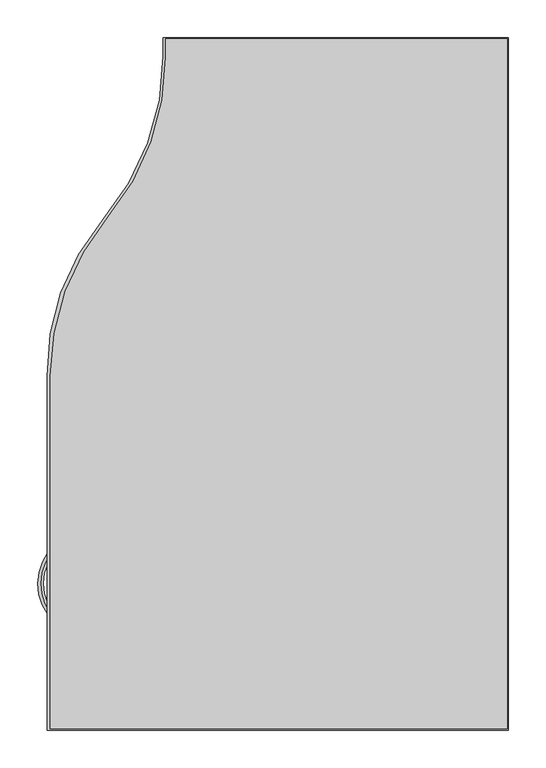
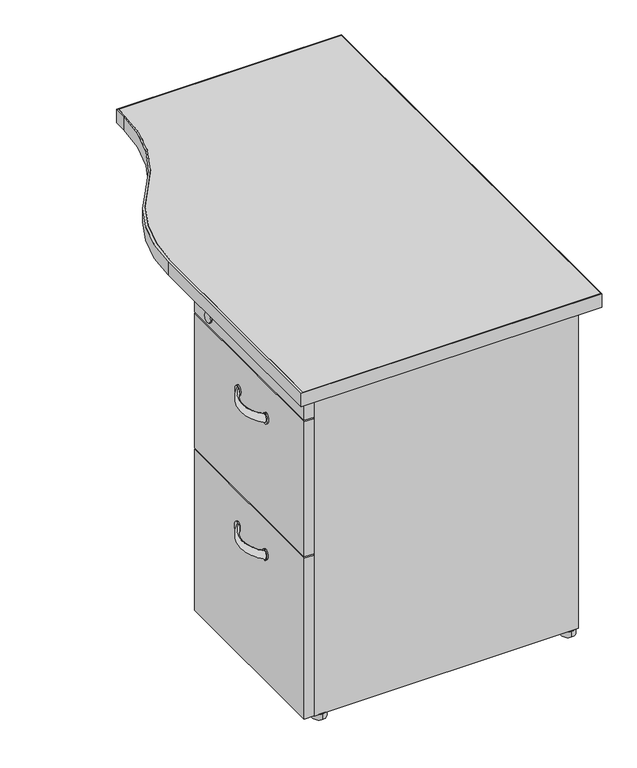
"""IFC4 building model written with IfcOpenShell, lengths in millimetres: furniture geometry, Steelcase - Kick Freestanding - Desk - Single Pedestal Transition Return : 18D x 36W - Right - File/File."""

from ifc_helpers import new_model, si_unit, point, frame, frame_2d, origin, origin_with_axes, place, context, project, spatial, polyline, circle_curve, ellipse_curve, trimmed, segment, composite_curve, outline, extrude, source, transform, mapped, element, save
from ifc_brep_helpers import plane_surface, cylinder_surface, revolved_surface, extruded_surface, advanced_brep


def furniture_96d449bd(model_context):
    return source(origin(), model_context, "Body", "SolidModel", [
        advanced_brep(
        [(1567.1281641, -1316.8132511, 586.4818798), (1567.1281641, -1316.8132511, 569.2783404), (1567.7941808, -1217.6632386, 586.4818798), (1567.7941808, -1217.6632386, 569.2783404)],
        [
            (0, 1, ellipse_curve(frame((1567.1281641, -1316.8132511, 577.8801101), z_axis=(0.7327226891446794, -0.6805273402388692, 0.0), x_axis=(0.0, 0.0, -1.0)), 8.6017697, 3.6448177)),
            (1, 0, ellipse_curve(frame((1567.1281641, -1316.8132511, 577.8801101), z_axis=(0.7327226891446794, -0.6805273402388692, 0.0), x_axis=(0.0, 0.0, -1.0)), 8.6017697, 3.6448177)),
            (2, 3, ellipse_curve(frame((1567.7941808, -1217.6632386, 577.8801101), z_axis=(0.7417987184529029, 0.670622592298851, 0.0), x_axis=(0.0, 0.0, -1.0)), 8.6017697, 3.6448177)),
            (3, 2, ellipse_curve(frame((1567.7941808, -1217.6632386, 577.8801101), z_axis=(0.7417987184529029, 0.670622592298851, 0.0), x_axis=(0.0, 0.0, -1.0)), 8.6017697, 3.6448177)),
            (3, 1, circle_curve(frame((1612.8882961, -1267.5433908, 569.2783404), z_axis=(0.0, 0.0, 1.0), x_axis=(-0.6805273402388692, -0.7327226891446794, 0.0)), 67.2421655)),
            (0, 2, circle_curve(frame((1612.8882961, -1267.5433908, 586.4818798), z_axis=(0.0, 0.0, -1.0), x_axis=(-0.6805273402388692, -0.7327226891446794, 0.0)), 67.2421655)),
        ],
        [
            plane_surface(frame((1566.3645897, -1317.6353903, 0.0), z_axis=(0.7327226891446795, -0.6805273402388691, 0.0), x_axis=(0.0, 0.0, 1.0))),
            plane_surface(frame((1567.0417199, -1216.8309157, 0.0), z_axis=(0.7417987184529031, 0.6706225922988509, 0.0), x_axis=(0.0, 0.0, 1.0))),
            revolved_surface(trimmed(ellipse_curve(frame((1567.1281641, -1316.8132511, 577.8801101), z_axis=(0.7327226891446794, -0.6805273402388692, 0.0), x_axis=(0.0, 0.0, -1.0)), 8.6017697, 3.6448177), [point((1567.1281641, -1316.8132511, 586.4818798))], [point((1567.1281641, -1316.8132511, 569.2783404))], True, "CARTESIAN"), (1612.8882961, -1267.5433908, 0.0), (0.0, 0.0, -1.0)),
            revolved_surface(trimmed(ellipse_curve(frame((1567.1281641, -1316.8132511, 577.8801101), z_axis=(0.7327226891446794, -0.6805273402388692, 0.0), x_axis=(0.0, 0.0, -1.0)), 8.6017697, 3.6448177), [point((1567.1281641, -1316.8132511, 569.2783404))], [point((1567.1281641, -1316.8132511, 586.4818798))], True, "CARTESIAN"), (1612.8882961, -1267.5433908, 0.0), (0.0, 0.0, -1.0)),
        ],
        [
            (0, [[1, 2]]),
            (1, [[3, 4]]),
            (2, [[5, -1, 6, -4]]),
            (3, [[-6, -2, -5, -3]]),
        ],
    ),
        advanced_brep(
        [(1567.1281641, -1316.8132511, 293.5881298), (1567.1281641, -1316.8132511, 276.3845904), (1567.7941808, -1217.6632386, 293.5881298), (1567.7941808, -1217.6632386, 276.3845904)],
        [
            (0, 1, ellipse_curve(frame((1567.1281641, -1316.8132511, 284.9863601), z_axis=(0.7327226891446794, -0.6805273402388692, 0.0), x_axis=(0.0, 0.0, -1.0)), 8.6017697, 3.6448177)),
            (1, 0, ellipse_curve(frame((1567.1281641, -1316.8132511, 284.9863601), z_axis=(0.7327226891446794, -0.6805273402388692, 0.0), x_axis=(0.0, 0.0, -1.0)), 8.6017697, 3.6448177)),
            (2, 3, ellipse_curve(frame((1567.7941808, -1217.6632386, 284.9863601), z_axis=(0.7417987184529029, 0.670622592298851, 0.0), x_axis=(0.0, 0.0, -1.0)), 8.6017697, 3.6448177)),
            (3, 2, ellipse_curve(frame((1567.7941808, -1217.6632386, 284.9863601), z_axis=(0.7417987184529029, 0.670622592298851, 0.0), x_axis=(0.0, 0.0, -1.0)), 8.6017697, 3.6448177)),
            (3, 1, circle_curve(frame((1612.8882961, -1267.5433908, 276.3845904), z_axis=(0.0, 0.0, 1.0), x_axis=(-0.6805273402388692, -0.7327226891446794, 0.0)), 67.2421655)),
            (0, 2, circle_curve(frame((1612.8882961, -1267.5433908, 293.5881298), z_axis=(0.0, 0.0, -1.0), x_axis=(-0.6805273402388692, -0.7327226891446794, 0.0)), 67.2421655)),
        ],
        [
            plane_surface(frame((1566.3645897, -1317.6353903, 0.0), z_axis=(0.7327226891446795, -0.6805273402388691, 0.0), x_axis=(0.0, 0.0, 1.0))),
            plane_surface(frame((1567.0417199, -1216.8309157, 0.0), z_axis=(0.7417987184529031, 0.6706225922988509, 0.0), x_axis=(0.0, 0.0, 1.0))),
            revolved_surface(trimmed(ellipse_curve(frame((1567.1281641, -1316.8132511, 284.9863601), z_axis=(0.7327226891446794, -0.6805273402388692, 0.0), x_axis=(0.0, 0.0, -1.0)), 8.6017697, 3.6448177), [point((1567.1281641, -1316.8132511, 293.5881298))], [point((1567.1281641, -1316.8132511, 276.3845904))], True, "CARTESIAN"), (1612.8882961, -1267.5433908, 0.0), (0.0, 0.0, -1.0)),
            revolved_surface(trimmed(ellipse_curve(frame((1567.1281641, -1316.8132511, 284.9863601), z_axis=(0.7327226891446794, -0.6805273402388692, 0.0), x_axis=(0.0, 0.0, -1.0)), 8.6017697, 3.6448177), [point((1567.1281641, -1316.8132511, 276.3845904))], [point((1567.1281641, -1316.8132511, 293.5881298))], True, "CARTESIAN"), (1612.8882961, -1267.5433908, 0.0), (0.0, 0.0, -1.0)),
        ],
        [
            (0, [[1, 2]]),
            (1, [[3, 4]]),
            (2, [[5, -1, 6, -4]]),
            (3, [[-6, -2, -5, -3]]),
        ],
    ),
        advanced_brep(
        [(1564.8733086, -1124.2380273, 671.1566635), (1564.8733086, -1103.9180273, 671.1566635), (1567.9720601, -1124.2380273, 671.1566635), (1567.9720601, -1103.9180273, 671.1566635)],
        [
            (0, 1, circle_curve(frame((1564.8733086, -1114.0780273, 671.1566635), z_axis=(-1.0, 0.0, 0.0), x_axis=(0.0, 1.0, 0.0)), 10.16)),
            (1, 0, circle_curve(frame((1564.8733086, -1114.0780273, 671.1566635), z_axis=(-1.0, 0.0, 0.0), x_axis=(0.0, 1.0, 0.0)), 10.16)),
            (2, 3, circle_curve(frame((1567.9720601, -1114.0780273, 671.1566635), z_axis=(1.0, 0.0, 0.0), x_axis=(0.0, 1.0, 0.0)), 10.16)),
            (3, 2, circle_curve(frame((1567.9720601, -1114.0780273, 671.1566635), z_axis=(1.0, 0.0, 0.0), x_axis=(0.0, 1.0, 0.0)), 10.16)),
            (0, 2),
            (3, 1),
        ],
        [
            plane_surface(frame((1564.8733086, -1103.9180273, 671.1566635), z_axis=(-1.0, 0.0, 0.0), x_axis=(0.0, 0.0, -1.0))),
            plane_surface(frame((1567.9720601, -1103.9180273, 671.1566635), z_axis=(1.0, 0.0, 0.0), x_axis=(0.0, 0.0, 1.0))),
            cylinder_surface(frame((1567.9720601, -1114.0780273, 671.1566635), z_axis=(-1.0, 0.0, 0.0), x_axis=(0.0, 1.0, 0.0)), 10.16),
        ],
        [
            (0, [[1, 2]]),
            (1, [[3, 4]]),
            (2, [[-1, 5, -4, 6]]),
            (2, [[-2, -6, -3, -5]]),
        ],
    ),
        advanced_brep(
        [(1564.8733086, -1315.4140492, 589.4466513), (1564.8733086, -1315.4140492, 566.5866513), (1567.9720601, -1315.4140492, 589.4466513), (1567.9720601, -1315.4140492, 566.5866513)],
        [
            (0, 1, ellipse_curve(frame((1564.8733086, -1315.4140492, 578.0166513), z_axis=(-1.0, 0.0, 0.0), x_axis=(0.0, 0.0, -1.0)), 11.43, 8.0054005)),
            (1, 0, ellipse_curve(frame((1564.8733086, -1315.4140492, 578.0166513), z_axis=(-1.0, 0.0, 0.0), x_axis=(0.0, 0.0, -1.0)), 11.43, 8.0054005)),
            (2, 3, ellipse_curve(frame((1567.9720601, -1315.4140492, 578.0166513), z_axis=(1.0, 0.0, 0.0), x_axis=(0.0, 0.0, -1.0)), 11.43, 8.0054005)),
            (3, 2, ellipse_curve(frame((1567.9720601, -1315.4140492, 578.0166513), z_axis=(1.0, 0.0, 0.0), x_axis=(0.0, 0.0, -1.0)), 11.43, 8.0054005)),
            (0, 2),
            (3, 1),
        ],
        [
            plane_surface(frame((1564.8733086, -1103.9180273, 671.1566635), z_axis=(-1.0, 0.0, 0.0), x_axis=(0.0, 0.0, -1.0))),
            plane_surface(frame((1567.9720601, -1103.9180273, 671.1566635), z_axis=(1.0, 0.0, 0.0), x_axis=(0.0, 0.0, 1.0))),
            extruded_surface(trimmed(ellipse_curve(frame((1571.9598601, -1315.4140492, 578.0166513), z_axis=(-1.0, 0.0, 0.0), x_axis=(0.0, 0.0, -1.0)), 11.43, 8.0054005), [point((1571.9598601, -1315.4140492, 589.4466513))], [point((1571.9598601, -1315.4140492, 566.5866513))], True, "CARTESIAN"), (-3.098751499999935, 0.0, 0.0), 3.098751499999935),
            extruded_surface(trimmed(ellipse_curve(frame((1571.9598601, -1315.4140492, 578.0166513), z_axis=(-1.0, 0.0, 0.0), x_axis=(0.0, 0.0, -1.0)), 11.43, 8.0054005), [point((1571.9598601, -1315.4140492, 566.5866513))], [point((1571.9598601, -1315.4140492, 589.4466513))], True, "CARTESIAN"), (-3.098751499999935, 0.0, 0.0), 3.098751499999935),
        ],
        [
            (0, [[1, 2]]),
            (1, [[3, 4]]),
            (2, [[-1, 5, -4, 6]]),
            (3, [[-2, -6, -3, -5]]),
        ],
    ),
        advanced_brep(
        [(1564.8733086, -1218.0852323, 589.4466513), (1564.8733086, -1218.0852323, 566.5866513), (1567.9720601, -1218.0852323, 589.4466513), (1567.9720601, -1218.0852323, 566.5866513)],
        [
            (0, 1, ellipse_curve(frame((1564.8733086, -1218.0852323, 578.0166513), z_axis=(-1.0, 0.0, 0.0), x_axis=(0.0, 0.0, -1.0)), 11.43, 8.0054005)),
            (1, 0, ellipse_curve(frame((1564.8733086, -1218.0852323, 578.0166513), z_axis=(-1.0, 0.0, 0.0), x_axis=(0.0, 0.0, -1.0)), 11.43, 8.0054005)),
            (2, 3, ellipse_curve(frame((1567.9720601, -1218.0852323, 578.0166513), z_axis=(1.0, 0.0, 0.0), x_axis=(0.0, 0.0, -1.0)), 11.43, 8.0054005)),
            (3, 2, ellipse_curve(frame((1567.9720601, -1218.0852323, 578.0166513), z_axis=(1.0, 0.0, 0.0), x_axis=(0.0, 0.0, -1.0)), 11.43, 8.0054005)),
            (0, 2),
            (3, 1),
        ],
        [
            plane_surface(frame((1564.8733086, -1103.9180273, 671.1566635), z_axis=(-1.0, 0.0, 0.0), x_axis=(0.0, 0.0, -1.0))),
            plane_surface(frame((1567.9720601, -1103.9180273, 671.1566635), z_axis=(1.0, 0.0, 0.0), x_axis=(0.0, 0.0, 1.0))),
            extruded_surface(trimmed(ellipse_curve(frame((1571.9598601, -1218.0852323, 578.0166513), z_axis=(-1.0, 0.0, 0.0), x_axis=(0.0, 0.0, -1.0)), 11.43, 8.0054005), [point((1571.9598601, -1218.0852323, 589.4466513))], [point((1571.9598601, -1218.0852323, 566.5866513))], True, "CARTESIAN"), (-3.098751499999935, 0.0, 0.0), 3.098751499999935),
            extruded_surface(trimmed(ellipse_curve(frame((1571.9598601, -1218.0852323, 578.0166513), z_axis=(-1.0, 0.0, 0.0), x_axis=(0.0, 0.0, -1.0)), 11.43, 8.0054005), [point((1571.9598601, -1218.0852323, 566.5866513))], [point((1571.9598601, -1218.0852323, 589.4466513))], True, "CARTESIAN"), (-3.098751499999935, 0.0, 0.0), 3.098751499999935),
        ],
        [
            (0, [[1, 2]]),
            (1, [[3, 4]]),
            (2, [[-1, 5, -4, 6]]),
            (3, [[-2, -6, -3, -5]]),
        ],
    ),
        advanced_brep(
        [(1564.8733086, -1313.3551434, 296.0079573), (1564.8733086, -1313.3551434, 273.1479573), (1567.9720601, -1313.3551434, 296.0079573), (1567.9720601, -1313.3551434, 273.1479573)],
        [
            (0, 1, ellipse_curve(frame((1564.8733086, -1313.3551434, 284.5779573), z_axis=(-1.0, 0.0, 0.0), x_axis=(0.0, 0.0, -1.0)), 11.43, 8.0054005)),
            (1, 0, ellipse_curve(frame((1564.8733086, -1313.3551434, 284.5779573), z_axis=(-1.0, 0.0, 0.0), x_axis=(0.0, 0.0, -1.0)), 11.43, 8.0054005)),
            (2, 3, ellipse_curve(frame((1567.9720601, -1313.3551434, 284.5779573), z_axis=(1.0, 0.0, 0.0), x_axis=(0.0, 0.0, -1.0)), 11.43, 8.0054005)),
            (3, 2, ellipse_curve(frame((1567.9720601, -1313.3551434, 284.5779573), z_axis=(1.0, 0.0, 0.0), x_axis=(0.0, 0.0, -1.0)), 11.43, 8.0054005)),
            (0, 2),
            (3, 1),
        ],
        [
            plane_surface(frame((1564.8733086, -1103.9180273, 671.1566635), z_axis=(-1.0, 0.0, 0.0), x_axis=(0.0, 0.0, -1.0))),
            plane_surface(frame((1567.9720601, -1103.9180273, 671.1566635), z_axis=(1.0, 0.0, 0.0), x_axis=(0.0, 0.0, 1.0))),
            extruded_surface(trimmed(ellipse_curve(frame((1571.9598601, -1313.3551434, 284.5779573), z_axis=(-1.0, 0.0, 0.0), x_axis=(0.0, 0.0, -1.0)), 11.43, 8.0054005), [point((1571.9598601, -1313.3551434, 296.0079573))], [point((1571.9598601, -1313.3551434, 273.1479573))], True, "CARTESIAN"), (-3.098751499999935, 0.0, 0.0), 3.098751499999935),
            extruded_surface(trimmed(ellipse_curve(frame((1571.9598601, -1313.3551434, 284.5779573), z_axis=(-1.0, 0.0, 0.0), x_axis=(0.0, 0.0, -1.0)), 11.43, 8.0054005), [point((1571.9598601, -1313.3551434, 273.1479573))], [point((1571.9598601, -1313.3551434, 296.0079573))], True, "CARTESIAN"), (-3.098751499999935, 0.0, 0.0), 3.098751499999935),
        ],
        [
            (0, [[1, 2]]),
            (1, [[3, 4]]),
            (2, [[-1, 5, -4, 6]]),
            (3, [[-2, -6, -3, -5]]),
        ],
    ),
        advanced_brep(
        [(1564.8733086, -1216.0263266, 296.0079573), (1564.8733086, -1216.0263266, 273.1479573), (1567.9720601, -1216.0263266, 296.0079573), (1567.9720601, -1216.0263266, 273.1479573)],
        [
            (0, 1, ellipse_curve(frame((1564.8733086, -1216.0263266, 284.5779573), z_axis=(-1.0, 0.0, 0.0), x_axis=(0.0, 0.0, -1.0)), 11.43, 8.0054005)),
            (1, 0, ellipse_curve(frame((1564.8733086, -1216.0263266, 284.5779573), z_axis=(-1.0, 0.0, 0.0), x_axis=(0.0, 0.0, -1.0)), 11.43, 8.0054005)),
            (2, 3, ellipse_curve(frame((1567.9720601, -1216.0263266, 284.5779573), z_axis=(1.0, 0.0, 0.0), x_axis=(0.0, 0.0, -1.0)), 11.43, 8.0054005)),
            (3, 2, ellipse_curve(frame((1567.9720601, -1216.0263266, 284.5779573), z_axis=(1.0, 0.0, 0.0), x_axis=(0.0, 0.0, -1.0)), 11.43, 8.0054005)),
            (0, 2),
            (3, 1),
        ],
        [
            plane_surface(frame((1564.8733086, -1103.9180273, 671.1566635), z_axis=(-1.0, 0.0, 0.0), x_axis=(0.0, 0.0, -1.0))),
            plane_surface(frame((1567.9720601, -1103.9180273, 671.1566635), z_axis=(1.0, 0.0, 0.0), x_axis=(0.0, 0.0, 1.0))),
            extruded_surface(trimmed(ellipse_curve(frame((1571.9598601, -1216.0263266, 284.5779573), z_axis=(-1.0, 0.0, 0.0), x_axis=(0.0, 0.0, -1.0)), 11.43, 8.0054005), [point((1571.9598601, -1216.0263266, 296.0079573))], [point((1571.9598601, -1216.0263266, 273.1479573))], True, "CARTESIAN"), (-3.098751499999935, 0.0, 0.0), 3.098751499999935),
            extruded_surface(trimmed(ellipse_curve(frame((1571.9598601, -1216.0263266, 284.5779573), z_axis=(-1.0, 0.0, 0.0), x_axis=(0.0, 0.0, -1.0)), 11.43, 8.0054005), [point((1571.9598601, -1216.0263266, 273.1479573))], [point((1571.9598601, -1216.0263266, 296.0079573))], True, "CARTESIAN"), (-3.098751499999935, 0.0, 0.0), 3.098751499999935),
        ],
        [
            (0, [[1, 2]]),
            (1, [[3, 4]]),
            (2, [[-1, 5, -4, 6]]),
            (3, [[-2, -6, -3, -5]]),
        ],
    ),
        extrude(outline(polyline([(1567.9720601, -1447.9145982), (1567.9720601, -1062.9776054), (1587.9111086, -1062.9776054), (1587.9111086, -1447.9145982), (1567.9720601, -1447.9145982)])), frame((0.0, 0.0, 360.6545895), z_axis=(0.0, 0.0, 1.0), x_axis=(1.0, 0.0, 0.0)), (0.0, 0.0, 1.0), 288.9250242),
        extrude(outline(polyline([(1567.9720601, -1447.9145982), (1567.9720601, -1062.9776054), (1587.9111086, -1062.9776054), (1587.9111086, -1447.9145982), (1567.9720601, -1447.9145982)])), frame((0.0, 0.0, 12.7), z_axis=(0.0, 0.0, 1.0), x_axis=(1.0, 0.0, 0.0)), (0.0, 0.0, 1.0), 344.7796016),
        extrude(outline(polyline([(1567.9720601, -1447.9145982), (1567.9720601, -1062.9776054), (1587.9111086, -1062.9776054), (1587.9111086, -1447.9145982), (1567.9720601, -1447.9145982)])), frame((0.0, 0.0, 652.7545653), z_axis=(0.0, 0.0, 1.0), x_axis=(1.0, 0.0, 0.0)), (0.0, 0.0, 1.0), 40.6400339),
        extrude(outline(composite_curve([segment(trimmed(circle_curve(frame_2d((2110.0114425, -1435.3382652)), 13.97), [point((2110.0114425, -1449.3082652))], [point((2110.0114425, -1421.3682652))], False, "CARTESIAN"), True, "CONTINUOUS"), segment(trimmed(circle_curve(frame_2d((2110.0114425, -1435.3382652)), 13.97), [point((2110.0114425, -1421.3682652))], [point((2110.0114425, -1449.3082652))], False, "CARTESIAN"), True, "CONTINUOUS")], self_intersect=False)), origin_with_axes(), (0.0, 0.0, 1.0), 12.446),
        extrude(outline(composite_curve([segment(trimmed(circle_curve(frame_2d((1605.0594425, -1435.3382652)), 13.97), [point((1605.0594425, -1449.3082652))], [point((1605.0594425, -1421.3682652))], False, "CARTESIAN"), True, "CONTINUOUS"), segment(trimmed(circle_curve(frame_2d((1605.0594425, -1435.3382652)), 13.97), [point((1605.0594425, -1421.3682652))], [point((1605.0594425, -1449.3082652))], False, "CARTESIAN"), True, "CONTINUOUS")], self_intersect=False)), origin_with_axes(), (0.0, 0.0, 1.0), 12.446),
        extrude(outline(composite_curve([segment(trimmed(circle_curve(frame_2d((2110.0114425, -1075.6776054)), 13.97), [point((2110.0114425, -1089.6476054))], [point((2110.0114425, -1061.7076054))], False, "CARTESIAN"), True, "CONTINUOUS"), segment(trimmed(circle_curve(frame_2d((2110.0114425, -1075.6776054)), 13.97), [point((2110.0114425, -1061.7076054))], [point((2110.0114425, -1089.6476054))], False, "CARTESIAN"), True, "CONTINUOUS")], self_intersect=False)), origin_with_axes(), (0.0, 0.0, 1.0), 12.446),
        extrude(outline(composite_curve([segment(trimmed(circle_curve(frame_2d((1604.2584597, -1075.6776054)), 12.7), [point((1604.2584597, -1088.3776054))], [point((1604.2584597, -1062.9776054))], False, "CARTESIAN"), True, "CONTINUOUS"), segment(trimmed(circle_curve(frame_2d((1604.2584597, -1075.6776054)), 12.7), [point((1604.2584597, -1062.9776054))], [point((1604.2584597, -1088.3776054))], False, "CARTESIAN"), True, "CONTINUOUS")], self_intersect=False)), origin_with_axes(), (0.0, 0.0, 1.0), 12.446),
        extrude(outline(polyline([(2124.4860601, -1062.9776054), (2124.4860601, -1447.9145982), (1587.9111086, -1447.9145982), (1587.9111086, -1062.9776054), (2124.4860601, -1062.9776054)]), holes=[polyline([(2099.0860609, -1082.8149846), (1608.4850708, -1082.8149846), (1608.4850708, -1428.0771996), (2099.0860609, -1428.0771996), (2099.0860609, -1082.8149846)])]), frame((0.0, 0.0, 12.446), z_axis=(0.0, 0.0, 1.0), x_axis=(1.0, 0.0, 0.0)), (0.0, 0.0, 1.0), 682.498),
        extrude(outline(composite_curve([segment(polyline([(1707.9294594, -546.8145152), (2163.8594425, -546.8145152), (2163.8594425, -1461.2145152), (1554.2594425, -1461.2145152), (1554.2594425, -994.1085152)]), True, "CONTINUOUS"), segment(trimmed(circle_curve(frame_2d((1864.0239413, -987.7058619)), 309.8306613), [point((1554.2594425, -994.1085152))], [point((1628.457587, -786.4509703))], False, "CARTESIAN"), True, "CONTINUOUS"), segment(trimmed(circle_curve(frame_2d((1376.3728371, -571.0836731)), 331.5566223), [point((1628.457587, -786.4509703))], [point((1707.9294594, -571.0836731))], True, "CARTESIAN"), True, "CONTINUOUS"), segment(polyline([(1707.9294594, -571.0836731), (1707.9294594, -546.8145152)]), True, "CONTINUOUS")], self_intersect=False), holes=[composite_curve([segment(polyline([(1710.9012257, -547.8051152), (1710.9012257, -572.1320079)]), True, "CONTINUOUS"), segment(trimmed(circle_curve(frame_2d((1386.0725345, -574.5942763)), 324.8380233), [point((1710.9012257, -572.1320079))], [point((1635.1600947, -783.1011797))], False, "CARTESIAN"), True, "CONTINUOUS"), segment(trimmed(circle_curve(frame_2d((1887.2347336, -994.1085152)), 328.7335079), [point((1635.1600947, -783.1011797))], [point((1558.5012257, -994.1085152))], True, "CARTESIAN"), True, "CONTINUOUS"), segment(polyline([(1558.5012257, -994.1085152), (1558.5012257, -1459.4619332), (2162.8688425, -1459.4619332), (2162.8688425, -547.8051152), (1710.9012257, -547.8051152)]), True, "CONTINUOUS")], self_intersect=False)]), frame((0.0, 0.0, 694.944), z_axis=(0.0, 0.0, 1.0), x_axis=(1.0, 0.0, 0.0)), (0.0, 0.0, 1.0), 28.956),
        extrude(outline(composite_curve([segment(polyline([(2162.8688425, -547.8051152), (2162.8688425, -1459.4619332), (1558.5012257, -1459.4619332), (1558.5012257, -994.1085152)]), True, "CONTINUOUS"), segment(trimmed(circle_curve(frame_2d((1887.2347336, -994.1085152)), 328.7335079), [point((1558.5012257, -994.1085152))], [point((1635.1600947, -783.1011797))], False, "CARTESIAN"), True, "CONTINUOUS"), segment(trimmed(circle_curve(frame_2d((1386.0725345, -574.5942763)), 324.8380233), [point((1635.1600947, -783.1011797))], [point((1710.9012257, -572.1320079))], True, "CARTESIAN"), True, "CONTINUOUS"), segment(polyline([(1710.9012257, -572.1320079), (1710.9012257, -547.8051152), (2162.8688425, -547.8051152)]), True, "CONTINUOUS")], self_intersect=False)), frame((0.0, 0.0, 694.944), z_axis=(0.0, 0.0, 1.0), x_axis=(1.0, 0.0, 0.0)), (0.0, 0.0, 1.0), 28.956),
    ])


if __name__ == "__main__":
    model = new_model("IFC4")
    model_context = context("Model", 3, world=origin())
    ifc_project = project(units=[si_unit("LENGTHUNIT", "METRE", prefix="MILLI")], contexts=[model_context])
    site = spatial("IfcSite", under=ifc_project)
    building = spatial("IfcBuilding", under=site)
    placement = place(None, origin())
    furniture_shape = furniture_96d449bd(model_context)
    element("IfcFurniture", 1, ObjectType="Steelcase - Kick Freestanding - Desk - Single Pedestal Transition Return : 18D x 36W - Right - File/File", at=placement, inside=building, context=model_context, shape_type="MappedRepresentation", body=[
        mapped(furniture_shape, transform((0.0, 0.0, 0.0), x_axis=(1.0, 0.0, 0.0), y_axis=(0.0, 1.0, 0.0), z_axis=(0.0, 0.0, 1.0))),
    ])
    save(model, "model.ifc")
